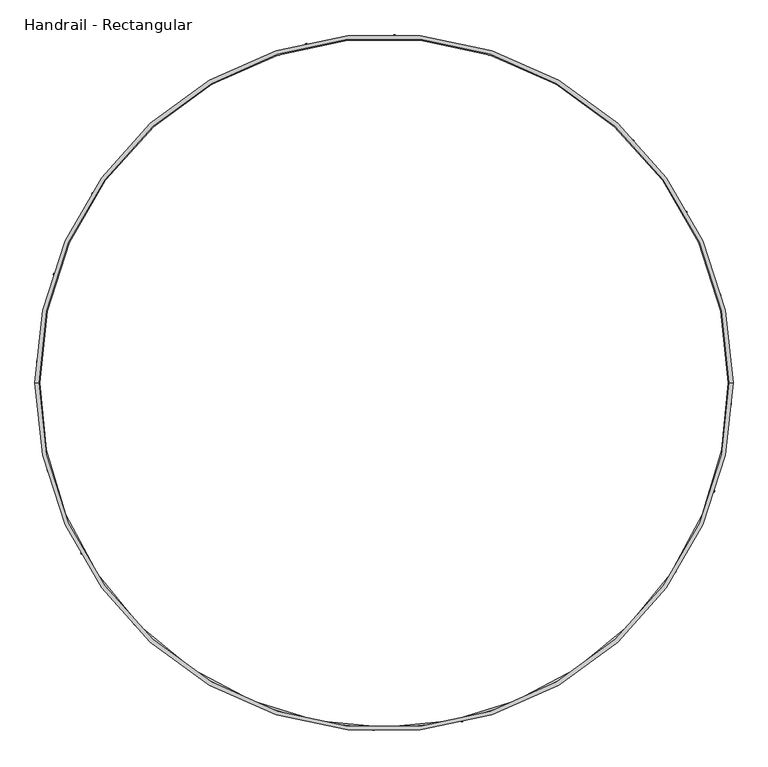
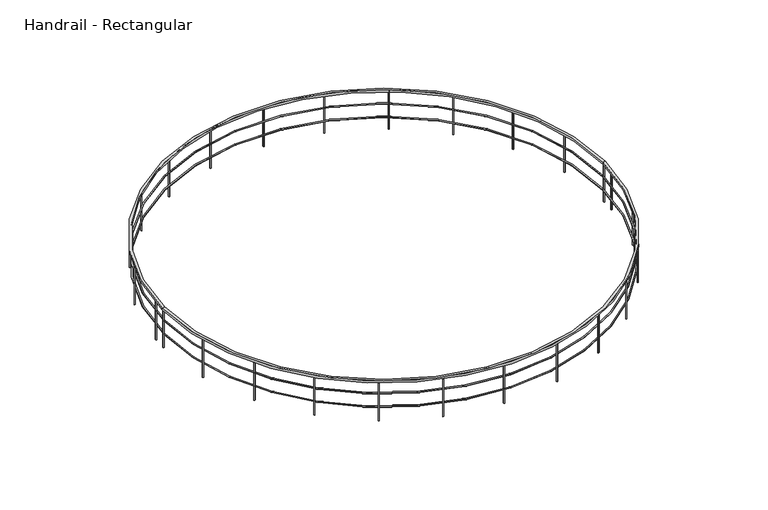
"""IFC4 building model written with IfcOpenShell, lengths in millimetres: railing geometry, Handrail - Rectangular."""

from ifc_helpers import new_model, si_unit, point, frame, origin, place, context, project, spatial, polyline, circle_curve, ellipse_curve, trimmed, outline, extrude, source, transform, mapped, element, save
from ifc_brep_helpers import plane_surface, cylinder_surface, revolved_surface, advanced_brep


def handrail_rectangular_c49794a6(model_context):
    return source(origin(), model_context, "Body", "SolidModel", [
        advanced_brep(
        [(-7195.5056157, -685.9860776, 7010.4), (2253.2943843, -685.9860776, 7010.4), (2304.0943843, -685.9860776, 7010.4), (-7246.3056157, -685.9860776, 7010.4), (-7195.5056157, -685.9860776, 6959.6), (2253.2943843, -685.9860776, 6959.6), (-7246.3056157, -685.9860776, 6959.6), (2304.0943843, -685.9860776, 6959.6)],
        [
            (0, 1, circle_curve(frame((-2471.1056157, -685.9860776, 7010.4), z_axis=(0.0, 0.0, -1.0), x_axis=(1.0, 0.0, 0.0)), 4724.4)),
            (1, 2),
            (2, 3, circle_curve(frame((-2471.1056157, -685.9860776, 7010.4), z_axis=(0.0, 0.0, 1.0), x_axis=(1.0, 0.0, 0.0)), 4775.2)),
            (3, 0),
            (4, 5, circle_curve(frame((-2471.1056157, -685.9860776, 6959.6), z_axis=(0.0, 0.0, -1.0), x_axis=(1.0, 0.0, 0.0)), 4724.4)),
            (5, 1),
            (0, 4),
            (6, 7, circle_curve(frame((-2471.1056157, -685.9860776, 6959.6), z_axis=(0.0, 0.0, -1.0), x_axis=(1.0, 0.0, 0.0)), 4775.2)),
            (7, 5),
            (4, 6),
            (2, 7),
            (6, 3),
            (1, 0, circle_curve(frame((-2471.1056157, -685.9860776, 7010.4), z_axis=(0.0, 0.0, -1.0), x_axis=(-1.0, 0.0, 0.0)), 4724.4)),
            (3, 2, circle_curve(frame((-2471.1056157, -685.9860776, 7010.4), z_axis=(0.0, 0.0, 1.0), x_axis=(-1.0, 0.0, 0.0)), 4775.2)),
            (5, 4, circle_curve(frame((-2471.1056157, -685.9860776, 6959.6), z_axis=(0.0, 0.0, -1.0), x_axis=(-1.0, 0.0, 0.0)), 4724.4)),
            (7, 6, circle_curve(frame((-2471.1056157, -685.9860776, 6959.6), z_axis=(0.0, 0.0, -1.0), x_axis=(-1.0, 0.0, 0.0)), 4775.2)),
        ],
        [
            plane_surface(frame((-2471.1056157, -685.9860776, 7010.4), z_axis=(0.0, 0.0, 1.0), x_axis=(1.0, 0.0, 0.0))),
            revolved_surface(polyline([(2253.2943843, -685.9860776, 7010.4), (2253.2943843, -685.9860776, 6959.6)]), (-2471.1056157, -685.9860776, 7010.4), (0.0, 0.0, 1.0)),
            plane_surface(frame((-2471.1056157, -685.9860776, 6959.6), z_axis=(0.0, 0.0, -1.0), x_axis=(1.0, 0.0, 0.0))),
            cylinder_surface(frame((-2471.1056157, -685.9860776, 7010.4), z_axis=(0.0, 0.0, 1.0), x_axis=(1.0, 0.0, 0.0)), 4775.2),
            plane_surface(frame((-2471.1056157, -685.9860776, 7010.4), z_axis=(0.0, 0.0, 1.0), x_axis=(-1.0, 0.0, 0.0))),
            revolved_surface(polyline([(-7195.5056157, -685.9860776, 7010.4), (-7195.5056157, -685.9860776, 6959.6)]), (-2471.1056157, -685.9860776, 7010.4), (0.0, 0.0, 1.0)),
            plane_surface(frame((-2471.1056157, -685.9860776, 6959.6), z_axis=(0.0, 0.0, -1.0), x_axis=(-1.0, 0.0, 0.0))),
            cylinder_surface(frame((-2471.1056157, -685.9860776, 7010.4), z_axis=(0.0, 0.0, 1.0), x_axis=(-1.0, 0.0, 0.0)), 4775.2),
        ],
        [
            (0, [[1, 2, 3, 4]]),
            (1, [[5, 6, -1, 7]]),
            (2, [[8, 9, -5, 10]]),
            (3, [[-3, 11, -8, 12]]),
            (4, [[13, -4, 14, -2]]),
            (5, [[15, -7, -13, -6]]),
            (6, [[16, -10, -15, -9]]),
            (7, [[-14, -12, -16, -11]]),
        ],
    ),
        advanced_brep(
        [(-7208.2056157, -685.9860776, 6388.1), (2265.9943843, -685.9860776, 6388.1), (2240.5943843, -685.9860776, 6388.1), (-7182.8056157, -685.9860776, 6388.1)],
        [
            (0, 1, circle_curve(frame((-2471.1056157, -685.9860776, 6388.1), z_axis=(0.0, 0.0, -1.0), x_axis=(1.0, 0.0, 0.0)), 4737.1)),
            (1, 2, circle_curve(frame((2253.2943843, -685.9860776, 6388.1), z_axis=(0.0, 1.0, 0.0), x_axis=(1.0, 0.0, 0.0)), 12.7)),
            (2, 3, circle_curve(frame((-2471.1056157, -685.9860776, 6388.1), z_axis=(0.0, 0.0, 1.0), x_axis=(1.0, 0.0, 0.0)), 4711.7)),
            (3, 0, circle_curve(frame((-7195.5056157, -685.9860776, 6388.1), z_axis=(0.0, 1.0, 0.0), x_axis=(-1.0, 0.0, 0.0)), 12.7)),
            (2, 1, circle_curve(frame((2253.2943843, -685.9860776, 6388.1), z_axis=(0.0, 1.0, 0.0), x_axis=(1.0, 0.0, 0.0)), 12.7)),
            (0, 3, circle_curve(frame((-7195.5056157, -685.9860776, 6388.1), z_axis=(0.0, 1.0, 0.0), x_axis=(-1.0, 0.0, 0.0)), 12.7)),
            (1, 0, circle_curve(frame((-2471.1056157, -685.9860776, 6388.1), z_axis=(0.0, 0.0, -1.0), x_axis=(-1.0, 0.0, 0.0)), 4737.1)),
            (3, 2, circle_curve(frame((-2471.1056157, -685.9860776, 6388.1), z_axis=(0.0, 0.0, 1.0), x_axis=(-1.0, 0.0, 0.0)), 4711.7)),
        ],
        [
            revolved_surface(trimmed(ellipse_curve(frame((2253.2943843, -685.9860776, 6388.1), z_axis=(0.0, -1.0, 0.0), x_axis=(1.0, 0.0, 0.0)), 12.7, 12.7), [point((2240.5943843, -685.9860776, 6388.1))], [point((2265.9943843, -685.9860776, 6388.1))], True, "CARTESIAN"), (-2471.1056157, -685.9860776, 6400.8), (0.0, 0.0, 1.0)),
            revolved_surface(trimmed(ellipse_curve(frame((2253.2943843, -685.9860776, 6388.1), z_axis=(0.0, -1.0, 0.0), x_axis=(1.0, 0.0, 0.0)), 12.7, 12.7), [point((2265.9943843, -685.9860776, 6388.1))], [point((2240.5943843, -685.9860776, 6388.1))], True, "CARTESIAN"), (-2471.1056157, -685.9860776, 6400.8), (0.0, 0.0, 1.0)),
            revolved_surface(trimmed(ellipse_curve(frame((-7195.5056157, -685.9860776, 6388.1), z_axis=(0.0, 1.0, 0.0), x_axis=(-1.0, 0.0, 0.0)), 12.7, 12.7), [point((-7182.8056157, -685.9860776, 6388.1))], [point((-7208.2056157, -685.9860776, 6388.1))], True, "CARTESIAN"), (-2471.1056157, -685.9860776, 6400.8), (0.0, 0.0, 1.0)),
            revolved_surface(trimmed(ellipse_curve(frame((-7195.5056157, -685.9860776, 6388.1), z_axis=(0.0, 1.0, 0.0), x_axis=(-1.0, 0.0, 0.0)), 12.7, 12.7), [point((-7208.2056157, -685.9860776, 6388.1))], [point((-7182.8056157, -685.9860776, 6388.1))], True, "CARTESIAN"), (-2471.1056157, -685.9860776, 6400.8), (0.0, 0.0, 1.0)),
        ],
        [
            (0, [[1, 2, 3, 4]]),
            (1, [[-3, 5, -1, 6]]),
            (2, [[7, -4, 8, -2]]),
            (3, [[-8, -6, -7, -5]]),
        ],
    ),
        advanced_brep(
        [(-7208.2056157, -685.9860776, 6692.9), (2265.9943843, -685.9860776, 6692.9), (2240.5943843, -685.9860776, 6692.9), (-7182.8056157, -685.9860776, 6692.9)],
        [
            (0, 1, circle_curve(frame((-2471.1056157, -685.9860776, 6692.9), z_axis=(0.0, 0.0, -1.0), x_axis=(1.0, 0.0, 0.0)), 4737.1)),
            (1, 2, circle_curve(frame((2253.2943843, -685.9860776, 6692.9), z_axis=(0.0, 1.0, 0.0), x_axis=(1.0, 0.0, 0.0)), 12.7)),
            (2, 3, circle_curve(frame((-2471.1056157, -685.9860776, 6692.9), z_axis=(0.0, 0.0, 1.0), x_axis=(1.0, 0.0, 0.0)), 4711.7)),
            (3, 0, circle_curve(frame((-7195.5056157, -685.9860776, 6692.9), z_axis=(0.0, 1.0, 0.0), x_axis=(-1.0, 0.0, 0.0)), 12.7)),
            (2, 1, circle_curve(frame((2253.2943843, -685.9860776, 6692.9), z_axis=(0.0, 1.0, 0.0), x_axis=(1.0, 0.0, 0.0)), 12.7)),
            (0, 3, circle_curve(frame((-7195.5056157, -685.9860776, 6692.9), z_axis=(0.0, 1.0, 0.0), x_axis=(-1.0, 0.0, 0.0)), 12.7)),
            (1, 0, circle_curve(frame((-2471.1056157, -685.9860776, 6692.9), z_axis=(0.0, 0.0, -1.0), x_axis=(-1.0, 0.0, 0.0)), 4737.1)),
            (3, 2, circle_curve(frame((-2471.1056157, -685.9860776, 6692.9), z_axis=(0.0, 0.0, 1.0), x_axis=(-1.0, 0.0, 0.0)), 4711.7)),
        ],
        [
            revolved_surface(trimmed(ellipse_curve(frame((2253.2943843, -685.9860776, 6692.9), z_axis=(0.0, -1.0, 0.0), x_axis=(1.0, 0.0, 0.0)), 12.7, 12.7), [point((2240.5943843, -685.9860776, 6692.9))], [point((2265.9943843, -685.9860776, 6692.9))], True, "CARTESIAN"), (-2471.1056157, -685.9860776, 6705.6), (0.0, 0.0, 1.0)),
            revolved_surface(trimmed(ellipse_curve(frame((2253.2943843, -685.9860776, 6692.9), z_axis=(0.0, -1.0, 0.0), x_axis=(1.0, 0.0, 0.0)), 12.7, 12.7), [point((2265.9943843, -685.9860776, 6692.9))], [point((2240.5943843, -685.9860776, 6692.9))], True, "CARTESIAN"), (-2471.1056157, -685.9860776, 6705.6), (0.0, 0.0, 1.0)),
            revolved_surface(trimmed(ellipse_curve(frame((-7195.5056157, -685.9860776, 6692.9), z_axis=(0.0, 1.0, 0.0), x_axis=(-1.0, 0.0, 0.0)), 12.7, 12.7), [point((-7182.8056157, -685.9860776, 6692.9))], [point((-7208.2056157, -685.9860776, 6692.9))], True, "CARTESIAN"), (-2471.1056157, -685.9860776, 6705.6), (0.0, 0.0, 1.0)),
            revolved_surface(trimmed(ellipse_curve(frame((-7195.5056157, -685.9860776, 6692.9), z_axis=(0.0, 1.0, 0.0), x_axis=(-1.0, 0.0, 0.0)), 12.7, 12.7), [point((-7208.2056157, -685.9860776, 6692.9))], [point((-7182.8056157, -685.9860776, 6692.9))], True, "CARTESIAN"), (-2471.1056157, -685.9860776, 6705.6), (0.0, 0.0, 1.0)),
        ],
        [
            (0, [[1, 2, 3, 4]]),
            (1, [[-3, 5, -1, 6]]),
            (2, [[7, -4, 8, -2]]),
            (3, [[-8, -6, -7, -5]]),
        ],
    ),
        extrude(outline(polyline([(2278.6729092, -987.4311737), (2259.6587819, -986.2626426), (2260.8273131, -967.2485153), (2279.8414403, -968.4170465), (2278.6729092, -987.4311737)])), frame((0.0, 0.0, 6096.0), z_axis=(0.0, 0.0, 1.0), x_axis=(1.0, 0.0, 0.0)), (0.0, 0.0, 1.0), 863.6),
        extrude(outline(polyline([(2046.526604, -2183.4052938), (2028.4320972, -2177.4478343), (2034.3895567, -2159.3533275), (2052.4840635, -2165.310787), (2046.526604, -2183.4052938)])), frame((0.0, 0.0, 6096.0), z_axis=(0.0, 0.0, 1.0), x_axis=(1.0, 0.0, 0.0)), (0.0, 0.0, 1.0), 863.6),
        extrude(outline(polyline([(1518.3580893, -3281.2595752), (1502.368863, -3270.9035556), (1512.7248826, -3254.9143293), (1528.7141089, -3265.2703488), (1518.3580893, -3281.2595752)])), frame((0.0, 0.0, 6096.0), z_axis=(0.0, 0.0, 1.0), x_axis=(1.0, 0.0, 0.0)), (0.0, 0.0, 1.0), 863.6),
        extrude(outline(polyline([(728.7761168, -4209.0560569), (715.9398804, -4194.9800655), (730.0158718, -4182.1438291), (742.8521082, -4196.2198205), (728.7761168, -4209.0560569)])), frame((0.0, 0.0, 6096.0), z_axis=(0.0, 0.0, 1.0), x_axis=(1.0, 0.0, 0.0)), (0.0, 0.0, 1.0), 863.6),
        extrude(outline(polyline([(-270.4811933, -4905.9999795), (-279.323333, -4889.1263591), (-262.4497126, -4880.2842194), (-253.6075729, -4897.1578398), (-270.4811933, -4905.9999795)])), frame((0.0, 0.0, 6096.0), z_axis=(0.0, 0.0, 1.0), x_axis=(1.0, 0.0, 0.0)), (0.0, 0.0, 1.0), 863.6),
        extrude(outline(polyline([(-1413.9365416, -5326.4234201), (-1418.2051948, -5307.857831), (-1399.6396057, -5303.5891777), (-1395.3709525, -5322.1547669), (-1413.9365416, -5326.4234201)])), frame((0.0, 0.0, 6096.0), z_axis=(0.0, 0.0, 1.0), x_axis=(1.0, 0.0, 0.0)), (0.0, 0.0, 1.0), 863.6),
        extrude(outline(polyline([(-2626.6639134, -5442.7777271), (-2626.0793725, -5423.7366974), (-2607.0383428, -5424.3212383), (-2607.6228837, -5443.362268), (-2626.6639134, -5442.7777271)])), frame((0.0, 0.0, 6096.0), z_axis=(0.0, 0.0, 1.0), x_axis=(1.0, 0.0, 0.0)), (0.0, 0.0, 1.0), 863.6),
        extrude(outline(polyline([(-3829.1981776, -5247.4386724), (-3823.7987453, -5229.1698839), (-3805.5299569, -5234.5693162), (-3810.9293891, -5252.8381047), (-3829.1981776, -5247.4386724)])), frame((0.0, 0.0, 6096.0), z_axis=(0.0, 0.0, 1.0), x_axis=(1.0, 0.0, 0.0)), (0.0, 0.0, 1.0), 863.6),
        extrude(outline(polyline([(-4942.7421165, -4753.2060359), (-4932.8815958, -4736.9065687), (-4916.5821286, -4746.7670894), (-4926.4426493, -4763.0665566), (-4942.7421165, -4753.2060359)])), frame((0.0, 0.0, 6096.0), z_axis=(0.0, 0.0, 1.0), x_axis=(1.0, 0.0, 0.0)), (0.0, 0.0, 1.0), 863.6),
        extrude(outline(polyline([(-5894.3296893, -3992.4648879), (-5880.6542003, -3979.2027802), (-5867.3920926, -3992.8782693), (-5881.0675817, -4006.1403769), (-5894.3296893, -3992.4648879)])), frame((0.0, 0.0, 6096.0), z_axis=(0.0, 0.0, 1.0), x_axis=(1.0, 0.0, 0.0)), (0.0, 0.0, 1.0), 863.6),
        extrude(outline(polyline([(-6621.6072023, -3015.063526), (-6605.0128445, -3005.7077904), (-6595.6571088, -3022.3021481), (-6612.2514666, -3031.6578838), (-6621.6072023, -3015.063526)])), frame((0.0, 0.0, 6096.0), z_axis=(0.0, 0.0, 1.0), x_axis=(1.0, 0.0, 0.0)), (0.0, 0.0, 1.0), 863.6),
        extrude(outline(polyline([(-7076.9190947, -1885.0471175), (-7058.4932296, -1880.2107974), (-7053.6569095, -1898.6366626), (-7072.0827746, -1903.4729827), (-7076.9190947, -1885.0471175)])), frame((0.0, 0.0, 6096.0), z_axis=(0.0, 0.0, 1.0), x_axis=(1.0, 0.0, 0.0)), (0.0, 0.0, 1.0), 863.6),
        extrude(outline(polyline([(-7220.8841406, -384.5409814), (-7201.8700133, -385.7095126), (-7203.0385445, -404.7236398), (-7222.0526717, -403.5551087), (-7220.8841406, -384.5409814)])), frame((0.0, 0.0, 6096.0), z_axis=(0.0, 0.0, 1.0), x_axis=(1.0, 0.0, 0.0)), (0.0, 0.0, 1.0), 863.6),
        extrude(outline(polyline([(-6988.7378354, 811.4331387), (-6970.6433286, 805.4756792), (-6976.600788, 787.3811724), (-6994.6952948, 793.3386319), (-6988.7378354, 811.4331387)])), frame((0.0, 0.0, 6096.0), z_axis=(0.0, 0.0, 1.0), x_axis=(1.0, 0.0, 0.0)), (0.0, 0.0, 1.0), 863.6),
        extrude(outline(polyline([(-6460.5693207, 1909.28742), (-6444.5800944, 1898.9314005), (-6454.936114, 1882.9421741), (-6470.9253403, 1893.2981937), (-6460.5693207, 1909.28742)])), frame((0.0, 0.0, 6096.0), z_axis=(0.0, 0.0, 1.0), x_axis=(1.0, 0.0, 0.0)), (0.0, 0.0, 1.0), 863.6),
        extrude(outline(polyline([(-5670.9873482, 2837.0839018), (-5658.1511118, 2823.0079103), (-5672.2271032, 2810.1716739), (-5685.0633396, 2824.2476654), (-5670.9873482, 2837.0839018)])), frame((0.0, 0.0, 6096.0), z_axis=(0.0, 0.0, 1.0), x_axis=(1.0, 0.0, 0.0)), (0.0, 0.0, 1.0), 863.6),
        extrude(outline(polyline([(-4671.7300381, 3534.0278244), (-4662.8878984, 3517.154204), (-4679.7615188, 3508.3120643), (-4688.6036585, 3525.1856847), (-4671.7300381, 3534.0278244)])), frame((0.0, 0.0, 6096.0), z_axis=(0.0, 0.0, 1.0), x_axis=(1.0, 0.0, 0.0)), (0.0, 0.0, 1.0), 863.6),
        extrude(outline(polyline([(-3528.2746898, 3954.451265), (-3524.0060366, 3935.8856758), (-3542.5716257, 3931.6170226), (-3546.8402789, 3950.1826117), (-3528.2746898, 3954.451265)])), frame((0.0, 0.0, 6096.0), z_axis=(0.0, 0.0, 1.0), x_axis=(1.0, 0.0, 0.0)), (0.0, 0.0, 1.0), 863.6),
        extrude(outline(polyline([(-2315.547318, 4070.805572), (-2316.1318589, 4051.7645423), (-2335.1728886, 4052.3490831), (-2334.5883477, 4071.3901128), (-2315.547318, 4070.805572)])), frame((0.0, 0.0, 6096.0), z_axis=(0.0, 0.0, 1.0), x_axis=(1.0, 0.0, 0.0)), (0.0, 0.0, 1.0), 863.6),
        extrude(outline(polyline([(-1113.0130538, 3875.4665172), (-1118.4124861, 3857.1977288), (-1136.6812745, 3862.5971611), (-1131.2818422, 3880.8659495), (-1113.0130538, 3875.4665172)])), frame((0.0, 0.0, 6096.0), z_axis=(0.0, 0.0, 1.0), x_axis=(1.0, 0.0, 0.0)), (0.0, 0.0, 1.0), 863.6),
        extrude(outline(polyline([(0.5308851, 3381.2338807), (-9.3296356, 3364.9344135), (-25.6291028, 3374.7949343), (-15.7685821, 3391.0944015), (0.5308851, 3381.2338807)])), frame((0.0, 0.0, 6096.0), z_axis=(0.0, 0.0, 1.0), x_axis=(1.0, 0.0, 0.0)), (0.0, 0.0, 1.0), 863.6),
        extrude(outline(polyline([(952.1184579, 2620.4927327), (938.4429689, 2607.2306251), (925.1808612, 2620.9061142), (938.8563503, 2634.1682218), (952.1184579, 2620.4927327)])), frame((0.0, 0.0, 6096.0), z_axis=(0.0, 0.0, 1.0), x_axis=(1.0, 0.0, 0.0)), (0.0, 0.0, 1.0), 863.6),
        extrude(outline(polyline([(1679.3959709, 1643.0913709), (1662.8016131, 1633.7356352), (1653.4458775, 1650.329993), (1670.0402352, 1659.6857287), (1679.3959709, 1643.0913709)])), frame((0.0, 0.0, 6096.0), z_axis=(0.0, 0.0, 1.0), x_axis=(1.0, 0.0, 0.0)), (0.0, 0.0, 1.0), 863.6),
        extrude(outline(polyline([(2134.7078634, 513.0749623), (2116.2819982, 508.2386422), (2111.4456781, 526.6645074), (2129.8715432, 531.5008275), (2134.7078634, 513.0749623)])), frame((0.0, 0.0, 6096.0), z_axis=(0.0, 0.0, 1.0), x_axis=(1.0, 0.0, 0.0)), (0.0, 0.0, 1.0), 863.6),
        extrude(outline(polyline([(2288.2193843, -695.5110776), (2269.1693843, -695.5110776), (2269.1693843, -676.4610776), (2288.2193843, -676.4610776), (2288.2193843, -695.5110776)])), frame((0.0, 0.0, 6096.0), z_axis=(0.0, 0.0, 1.0), x_axis=(1.0, 0.0, 0.0)), (0.0, 0.0, 1.0), 863.6),
        extrude(outline(polyline([(-7230.4306157, -676.4610776), (-7211.3806157, -676.4610776), (-7211.3806157, -695.5110776), (-7230.4306157, -695.5110776), (-7230.4306157, -676.4610776)])), frame((0.0, 0.0, 6096.0), z_axis=(0.0, 0.0, 1.0), x_axis=(1.0, 0.0, 0.0)), (0.0, 0.0, 1.0), 863.6),
    ])


if __name__ == "__main__":
    model = new_model("IFC4")
    model_context = context("Model", 3, world=origin())
    ifc_project = project(units=[si_unit("LENGTHUNIT", "METRE", prefix="MILLI")], contexts=[model_context])
    site = spatial("IfcSite", under=ifc_project)
    building = spatial("IfcBuilding", under=site)
    placement = place(None, origin())
    handrail_rectangular_shape = handrail_rectangular_c49794a6(model_context)
    element("IfcRailing", 1, ObjectType="Handrail - Rectangular", at=placement, inside=building, context=model_context, shape_type="MappedRepresentation", body=[
        mapped(handrail_rectangular_shape, transform((0.0, 0.0, 0.0), x_axis=(1.0, 0.0, 0.0), y_axis=(0.0, 1.0, 0.0), z_axis=(0.0, 0.0, 1.0))),
    ])
    save(model, "model.ifc")
